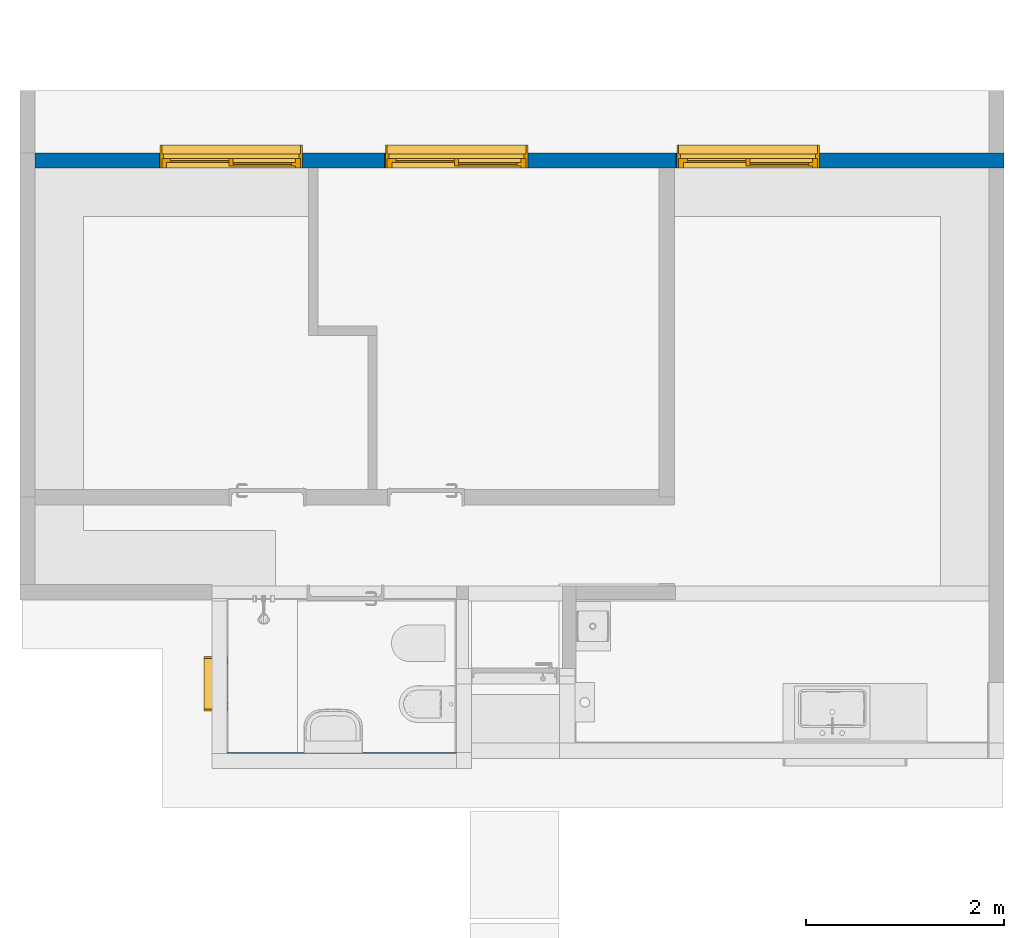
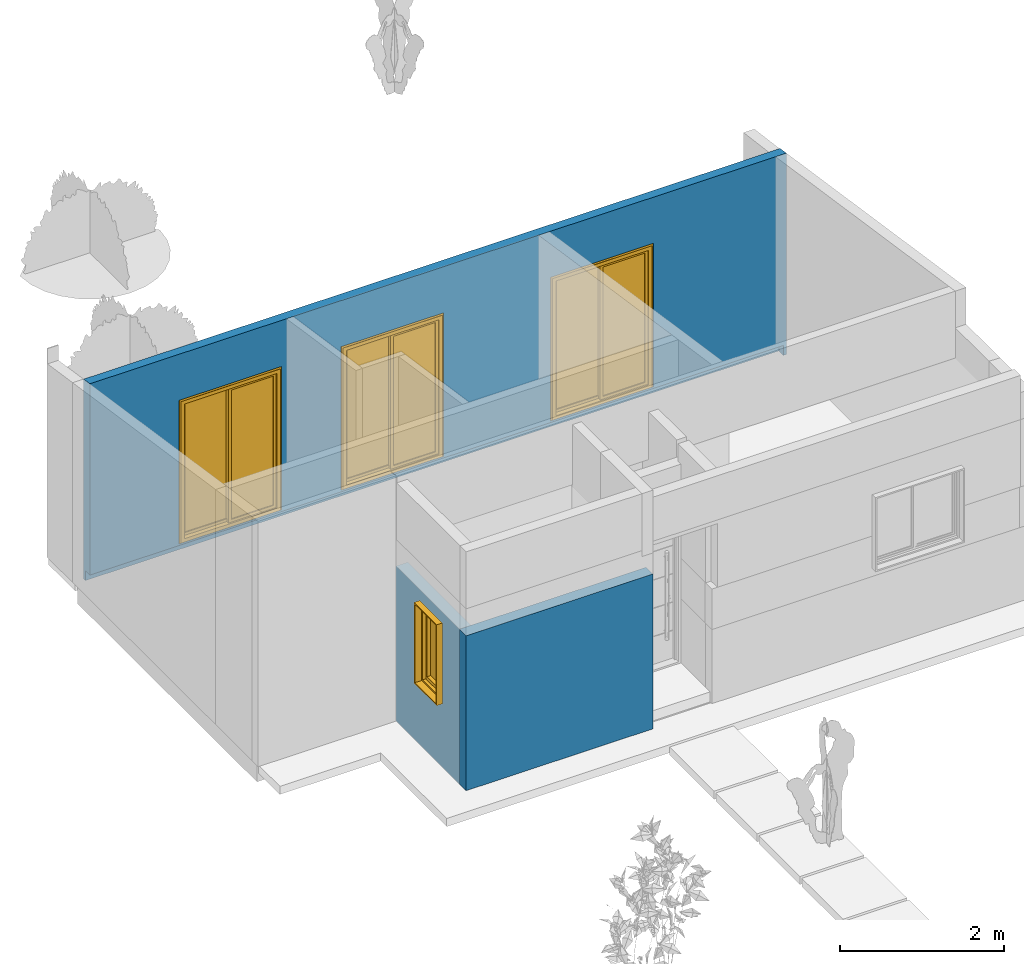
# One storey, part 3 of 8: 7 windows, 2 walls, 7 openings, plus 1 element that does not belong to this part.
"""IFC2X3 building model written with IfcOpenShell, lengths in metres."""

import ifcopenshell
import ifcopenshell.guid

model = None  # the IFC model being written
_history = None  # IfcOwnerHistory: only IFC2X3 demands one
_inside = {}  # id of a spatial element -> (the spatial element, [elements in it])
_under = {}  # id of a project, library or spatial element -> (it, [spatial elements below it])
_declared = {}  # id of a project -> (the project, [libraries it declares])
_typed = {}  # id of a type object -> (the type object, [elements of that type])
_made_of = {}  # id of a material, layer set ... -> (it, [elements and type objects made of it])


def new_model(schema):
    """Start an empty IFC model of exactly this schema.

    Asked for "IFC4X3", IfcOpenShell would pick the latest addendum, in which some entities
    have other attributes; the version numbers below select the first issue.
    IFC2X3 requires an IfcOwnerHistory on every rooted entity: one is made here for all.
    """
    global model, _history
    if schema == "IFC4X3":
        model = ifcopenshell.file(schema_version=(4, 3, 0, 0))
    else:
        model = ifcopenshell.file(schema=schema)
    _inside.clear()
    _under.clear()
    _declared.clear()
    _typed.clear()
    _made_of.clear()
    _history = None
    if model.schema == "IFC2X3":
        org = make("IfcOrganization", Name="unknown")
        user = make(
            "IfcPersonAndOrganization",
            ThePerson=make("IfcPerson", FamilyName="unknown"),
            TheOrganization=org,
        )
        app = make(
            "IfcApplication",
            ApplicationDeveloper=org,
            Version="unknown",
            ApplicationFullName="unknown",
            ApplicationIdentifier="unknown",
        )
        _history = make(
            "IfcOwnerHistory",
            OwningUser=user,
            OwningApplication=app,
            ChangeAction="ADDED",
            CreationDate=0,
        )
    return model


def make(cls, **values):
    """One entity of the class cls with the attributes given. An attribute that is None is left unset."""
    return model.create_entity(
        cls, **{name: value for name, value in values.items() if value is not None}
    )


def entity(cls, *values):
    """Any entity or typed value of the class cls, its attributes in the order of the schema. None: left unset."""
    e = model.create_entity(cls)
    for i, value in enumerate(values):
        if value is not None:
            e[i] = value
    return e


def rooted(cls, **values):
    """An entity with a GlobalId (a new one), such as an element, a storey or a relation."""
    return make(cls, GlobalId=ifcopenshell.guid.new(), OwnerHistory=_history, **values)


def si_unit(unit_type, name, prefix=None):
    """IfcSIUnit, for example si_unit("LENGTHUNIT", "METRE", prefix="MILLI")."""
    return make("IfcSIUnit", UnitType=unit_type, Prefix=prefix, Name=name)


def converted_unit(unit_type, name, factor, base, dimensions=None, offset=None):
    """IfcConversionBasedUnit, such as the inch: factor (a typed value) times the base unit."""
    return make(
        "IfcConversionBasedUnit"
        if offset is None
        else "IfcConversionBasedUnitWithOffset",
        ConversionOffset=offset,
        Dimensions=None
        if dimensions is None
        else entity("IfcDimensionalExponents", *dimensions),
        UnitType=unit_type,
        Name=name,
        ConversionFactor=make(
            "IfcMeasureWithUnit", ValueComponent=factor, UnitComponent=base
        ),
    )


def derived_unit(unit_type, elements):
    """IfcDerivedUnit: a product of units, each with its exponent."""
    return make(
        "IfcDerivedUnit",
        Elements=[
            make("IfcDerivedUnitElement", Unit=unit, Exponent=power)
            for unit, power in elements
        ],
        UnitType=unit_type,
    )


def assignment(units):
    """IfcUnitAssignment: the units of a project."""
    return None if units is None else make("IfcUnitAssignment", Units=units)


def point(xyz):
    """IfcCartesianPoint."""
    return None if xyz is None else make("IfcCartesianPoint", Coordinates=xyz)


def direction(xyz):
    """IfcDirection."""
    return None if xyz is None else make("IfcDirection", DirectionRatios=xyz)


def frame(location, z_axis=None, x_axis=None):
    """IfcAxis2Placement3D, a coordinate frame: its origin and axes. An axis left out is left unset."""
    return make(
        "IfcAxis2Placement3D",
        Location=point(location),
        Axis=direction(z_axis),
        RefDirection=direction(x_axis),
    )


def frame_2d(location, x_axis=None):
    """IfcAxis2Placement2D, a coordinate frame in the plane: its origin and x axis."""
    return make(
        "IfcAxis2Placement2D", Location=point(location), RefDirection=direction(x_axis)
    )


def origin():
    """The frame at (0, 0, 0) with its axes left unset."""
    return frame((0.0, 0.0, 0.0))


def origin_2d_with_axis():
    """The frame at (0, 0) in the plane with the x axis (1, 0) written out."""
    return frame_2d((0.0, 0.0), x_axis=(1.0, 0.0))


def place(relative_to, where):
    """IfcLocalPlacement: puts the frame where relative to a parent placement (None: the world)."""
    return make(
        "IfcLocalPlacement", PlacementRelTo=relative_to, RelativePlacement=where
    )


def context(
    kind, dimensions, precision=None, world=None, true_north=None, identifier=None
):
    """IfcGeometricRepresentationContext, for example the 3D "Model" context."""
    return make(
        "IfcGeometricRepresentationContext",
        ContextIdentifier=identifier,
        ContextType=kind,
        CoordinateSpaceDimension=dimensions,
        Precision=precision,
        WorldCoordinateSystem=world,
        TrueNorth=true_north,
    )


def subcontext(parent, identifier, kind, view, scale=None):
    """IfcGeometricRepresentationSubContext, for example "Body" below "Model"."""
    return make(
        "IfcGeometricRepresentationSubContext",
        ContextIdentifier=identifier,
        ContextType=kind,
        ParentContext=parent,
        TargetScale=scale,
        TargetView=view,
    )


def project(units=None, contexts=None):
    """IfcProject with its units and contexts."""
    return rooted(
        "IfcProject",
        Name="project",
        RepresentationContexts=contexts,
        UnitsInContext=assignment(units),
    )


def spatial(cls, under=None, at=None, **own):
    """A site, building, storey or space (cls), placed at a placement, below another one or the project."""
    s = rooted(cls, ObjectPlacement=at, **own)
    if under is not None:
        _under.setdefault(under.id(), (under, []))[1].append(s)
    return s


def polyline(points):
    """IfcPolyline through the points."""
    return make("IfcPolyline", Points=[point(p) for p in points])


def profile(cls, at=None, kind="AREA", **sizes):
    """A parametric profile (cls). Its sizes go by their IFC names, for example OverallWidth=200.0."""
    return make(cls, ProfileType=kind, Position=at, **sizes)


def rectangle(**sizes):
    """IfcRectangleProfileDef."""
    return profile("IfcRectangleProfileDef", **sizes)


def outline(outer, holes=None, kind="AREA"):
    """IfcArbitraryClosedProfileDef: a profile drawn as a closed curve; with holes, ...WithVoids."""
    if holes is None:
        return make("IfcArbitraryClosedProfileDef", ProfileType=kind, OuterCurve=outer)
    return make(
        "IfcArbitraryProfileDefWithVoids",
        ProfileType=kind,
        OuterCurve=outer,
        InnerCurves=holes,
    )


def extrude(swept, where, along, depth):
    """IfcExtrudedAreaSolid: the profile swept, set in the frame where, extruded along a direction by depth."""
    return make(
        "IfcExtrudedAreaSolid",
        SweptArea=swept,
        Position=where,
        ExtrudedDirection=direction(along),
        Depth=depth,
    )


def clip(a, b, op="DIFFERENCE"):
    """IfcBooleanClippingResult: the solid a cut by the half space b."""
    return make(
        "IfcBooleanClippingResult", Operator=op, FirstOperand=a, SecondOperand=b
    )


def bounded_halfspace(plane, agree, where, boundary):
    """IfcPolygonalBoundedHalfSpace: a half space limited to a polygon's prism."""
    return make(
        "IfcPolygonalBoundedHalfSpace",
        BaseSurface=make("IfcPlane", Position=plane),
        AgreementFlag=agree,
        Position=where,
        PolygonalBoundary=boundary,
    )


def faces_of(points, faces, orient=None, outer=None):
    """IfcFace entities. A face is a list of loops; a loop is a list of indices into points, from 0.

    orient and outer hold one flag for each loop. By default every Orientation is true, the
    first loop of a face is its IfcFaceOuterBound and the others are IfcFaceBound.
    """
    made = []
    for i, loops in enumerate(faces):
        bounds = []
        for j, loop in enumerate(loops):
            is_outer = j == 0 if outer is None else outer[i][j]
            bounds.append(
                make(
                    "IfcFaceOuterBound" if is_outer else "IfcFaceBound",
                    Bound=make("IfcPolyLoop", Polygon=[points[k] for k in loop]),
                    Orientation=True if orient is None else orient[i][j],
                )
            )
        made.append(make("IfcFace", Bounds=bounds))
    return made


def faceted_brep(points, faces, orient=None, outer=None, voids=None):
    """IfcFacetedBrep: a solid bounded by flat faces; with voids (closed shells), ...WithVoids."""
    shared = [point(p) for p in points]
    hull = make("IfcClosedShell", CfsFaces=faces_of(shared, faces, orient, outer))
    if voids is None:
        return make("IfcFacetedBrep", Outer=hull)
    return make(
        "IfcFacetedBrepWithVoids",
        Outer=hull,
        Voids=[
            make(cls, CfsFaces=faces_of(shared, fs, o, b)) for cls, fs, o, b in voids
        ],
    )


def shape(context_of_items, identifier, shape_type, items):
    """IfcShapeRepresentation: the items that make up one representation, for example the "Body"."""
    return make(
        "IfcShapeRepresentation",
        ContextOfItems=context_of_items,
        RepresentationIdentifier=identifier,
        RepresentationType=shape_type,
        Items=items,
    )


def source(mapping_origin, context_of_items, identifier, shape_type, items):
    """IfcRepresentationMap: a shape defined once, which mapped items show again and again."""
    return make(
        "IfcRepresentationMap",
        MappingOrigin=mapping_origin,
        MappedRepresentation=shape(context_of_items, identifier, shape_type, items),
    )


def transform(
    local_origin,
    x_axis=None,
    y_axis=None,
    z_axis=None,
    scale=None,
    scale2=None,
    scale3=None,
    uniform=True,
):
    """IfcCartesianTransformationOperator3D, or its non-uniform kind. x_axis, y_axis, z_axis: its Axis1, 2, 3."""
    if uniform:
        return make(
            "IfcCartesianTransformationOperator3D",
            Axis1=direction(x_axis),
            Axis2=direction(y_axis),
            LocalOrigin=point(local_origin),
            Scale=scale,
            Axis3=direction(z_axis),
        )
    return make(
        "IfcCartesianTransformationOperator3DnonUniform",
        Axis1=direction(x_axis),
        Axis2=direction(y_axis),
        LocalOrigin=point(local_origin),
        Scale=scale,
        Axis3=direction(z_axis),
        Scale2=scale2,
        Scale3=scale3,
    )


def mapped(mapping_source, mapping_target):
    """IfcMappedItem: shows the shape of a source again, moved by a transform."""
    return make(
        "IfcMappedItem", MappingSource=mapping_source, MappingTarget=mapping_target
    )


def material(Name=None, Category=None):
    """IfcMaterial."""
    return make("IfcMaterial", Name=Name, Category=Category)


def material_list(materials):
    """IfcMaterialList."""
    return make("IfcMaterialList", Materials=materials)


def layer(
    of_material, thickness, ventilated=None, Name=None, Category=None, Priority=None
):
    """IfcMaterialLayer: one layer of a wall or slab, of a material (None: an air gap)."""
    return make(
        "IfcMaterialLayer",
        Material=of_material,
        LayerThickness=thickness,
        IsVentilated=ventilated,
        Name=Name,
        Category=Category,
        Priority=Priority,
    )


def layer_set(layers, Name=None):
    """IfcMaterialLayerSet."""
    return make("IfcMaterialLayerSet", MaterialLayers=layers, LayerSetName=Name)


def layer_usage(for_layer_set, set_direction, sense, offset, extent=None):
    """IfcMaterialLayerSetUsage: how a layer set lies in its element."""
    return make(
        "IfcMaterialLayerSetUsage",
        ForLayerSet=for_layer_set,
        LayerSetDirection=set_direction,
        DirectionSense=sense,
        OffsetFromReferenceLine=offset,
        ReferenceExtent=extent,
    )


def made_of(thing, what):
    """Note that an element or type object is made of a material, layer set ...; save() writes the relation."""
    if what is not None:
        _made_of.setdefault(what.id(), (what, []))[1].append(thing)
    return thing


def type_object(cls, material=None, **own):
    """A type object (cls), such as IfcWallType, which elements share."""
    return made_of(rooted(cls, **own), material)


def type_shapes(of_type, sources):
    """Give a type object the sources (RepresentationMaps) that its elements show as mapped items."""
    of_type.RepresentationMaps = sources


def element(
    cls,
    number,
    at=None,
    inside=None,
    cuts=None,
    type_object=None,
    material=None,
    context=None,
    identifier="Body",
    shape_type=None,
    held_by="IfcProductDefinitionShape",
    body=None,
    shapes=None,
    **own,
):
    """One element of the class cls, such as IfcWall. Its Tag is "e" and its number.

    at: its placement. inside: the storey or other place that contains it. cuts: it is an
    opening in that element (IfcRelVoidsElement). A single representation is given by context,
    identifier, shape_type and body (its items); several are given by shapes. held_by: the class
    of the entity that holds the representations. save() writes the other relations.
    """
    e = rooted(cls, Tag="e%d" % number, ObjectPlacement=at, **own)
    if body is not None:
        shapes = [shape(context, identifier, shape_type, body)]
    if shapes is not None:
        e.Representation = make(held_by, Representations=shapes)
    if inside is not None:
        _inside.setdefault(inside.id(), (inside, []))[1].append(e)
    if cuts is not None:
        rooted(
            "IfcRelVoidsElement", RelatingBuildingElement=cuts, RelatedOpeningElement=e
        )
    if type_object is not None:
        _typed.setdefault(type_object.id(), (type_object, []))[1].append(e)
    return made_of(e, material)


def fill(opening, filler):
    """IfcRelFillsElement: the door or window that sits in an opening."""
    return rooted(
        "IfcRelFillsElement",
        RelatingOpeningElement=opening,
        RelatedBuildingElement=filler,
    )


def aggregate(whole, parts):
    """IfcRelAggregates: a whole, such as a stair, and the parts it consists of."""
    return rooted("IfcRelAggregates", RelatingObject=whole, RelatedObjects=parts)


def save(model, path):
    """Write the relations noted so far, then the file.

    IfcRelAggregates (storeys below a building ...), IfcRelContainedInSpatialStructure (elements
    in a storey), IfcRelDefinesByType, IfcRelAssociatesMaterial and IfcRelDeclares: one each for
    every whole, place, type object, material and project.
    """
    for whole, parts in _under.values():
        aggregate(whole, parts)
    for where, things in _inside.values():
        rooted(
            "IfcRelContainedInSpatialStructure",
            RelatedElements=things,
            RelatingStructure=where,
        )
    for kind, things in _typed.values():
        rooted("IfcRelDefinesByType", RelatedObjects=things, RelatingType=kind)
    for what, things in _made_of.values():
        rooted("IfcRelAssociatesMaterial", RelatedObjects=things, RelatingMaterial=what)
    for by, libraries in _declared.values():
        rooted("IfcRelDeclares", RelatingContext=by, RelatedDefinitions=libraries)
    model.write(path)


model = new_model("IFC2X3")

# Units and contexts
model_context = context("Model", 3, precision=1e-05, world=origin(), true_north=direction((6.12303176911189e-17, 1.0)))
body_context = subcontext(model_context, "Body", "Model", "MODEL_VIEW")
ifc_project = project(units=[si_unit("LENGTHUNIT", "METRE"), si_unit("AREAUNIT", "SQUARE_METRE"), si_unit("VOLUMEUNIT", "CUBIC_METRE"), converted_unit("PLANEANGLEUNIT", "DEGREE", entity("IfcRatioMeasure", 0.0174532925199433), si_unit("PLANEANGLEUNIT", "RADIAN"), dimensions=[0, 0, 0, 0, 0, 0, 0]), si_unit("MASSUNIT", "GRAM", prefix="KILO"), derived_unit("MASSDENSITYUNIT", [(si_unit("MASSUNIT", "GRAM", prefix="KILO"), 1), (si_unit("LENGTHUNIT", "METRE"), -3)]), si_unit("TIMEUNIT", "SECOND"), si_unit("FREQUENCYUNIT", "HERTZ"), si_unit("THERMODYNAMICTEMPERATUREUNIT", "DEGREE_CELSIUS"), derived_unit("THERMALTRANSMITTANCEUNIT", [(si_unit("MASSUNIT", "GRAM", prefix="KILO"), 1), (si_unit("THERMODYNAMICTEMPERATUREUNIT", "KELVIN"), -1), (si_unit("TIMEUNIT", "SECOND"), -3)]), derived_unit("VOLUMETRICFLOWRATEUNIT", [(si_unit("LENGTHUNIT", "METRE"), 3), (si_unit("TIMEUNIT", "SECOND"), -1)]), si_unit("ELECTRICCURRENTUNIT", "AMPERE"), si_unit("ELECTRICVOLTAGEUNIT", "VOLT"), si_unit("POWERUNIT", "WATT"), si_unit("FORCEUNIT", "NEWTON", prefix="KILO"), si_unit("ILLUMINANCEUNIT", "LUX"), si_unit("LUMINOUSFLUXUNIT", "LUMEN"), si_unit("LUMINOUSINTENSITYUNIT", "CANDELA"), derived_unit("USERDEFINED", [(si_unit("MASSUNIT", "GRAM", prefix="KILO"), -1), (si_unit("LENGTHUNIT", "METRE"), -2), (si_unit("TIMEUNIT", "SECOND"), 3), (si_unit("LUMINOUSFLUXUNIT", "LUMEN"), 1)]), derived_unit("LINEARVELOCITYUNIT", [(si_unit("LENGTHUNIT", "METRE"), 1), (si_unit("TIMEUNIT", "SECOND"), -1)]), si_unit("PRESSUREUNIT", "PASCAL"), derived_unit("USERDEFINED", [(si_unit("LENGTHUNIT", "METRE"), -2), (si_unit("MASSUNIT", "GRAM", prefix="KILO"), 1), (si_unit("TIMEUNIT", "SECOND"), -2)])], contexts=[model_context])

# Site, building, storey
site_placement = place(None, origin())
site = spatial("IfcSite", under=ifc_project, at=site_placement, Name="Surface", CompositionType="ELEMENT")
building_placement = place(site_placement, origin())
building = spatial("IfcBuilding", under=site, at=building_placement, CompositionType="ELEMENT")
storey_placement = place(building_placement, origin())
storey = spatial("IfcBuildingStorey", under=building, at=storey_placement, Name="Nivel 0.0", CompositionType="ELEMENT", Elevation=0.0)

# Wall, openings, windows
ifc_material_1 = material(Name="Placa cementicia")
ifc_layer_1 = layer(ifc_material_1, 0.0125)
ifc_material_2 = material(Name="Bastidor metálico")
ifc_layer_2 = layer(ifc_material_2, 0.03)
ifc_material_3 = material(Name="OSB")
ifc_layer_3 = layer(ifc_material_3, 0.011)
ifc_material_4 = material(Name="Poliestireno expandido")
ifc_layer_4 = layer(ifc_material_4, 0.046)
ifc_layer_5 = layer(ifc_material_3, 0.011)
ifc_layer_6 = layer(ifc_material_2, 0.03)
ifc_material_5 = material(Name="Placa roca de Yeso 12,5mm")
ifc_layer_7 = layer(ifc_material_5, 0.0125)
ifc_layer_set_1 = layer_set([ifc_layer_1, ifc_layer_2, ifc_layer_3, ifc_layer_4, ifc_layer_5, ifc_layer_6, ifc_layer_7], Name="Basic Wall:Pe-NW-002")
wall_type_1 = type_object("IfcWallType", Name="Basic Wall:Pe-NW-002", PredefinedType="STANDARD", material=ifc_layer_set_1)
wall_1_placement = place(storey_placement, frame((0.937414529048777, 2.61521467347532, -0.175), z_axis=(0.0, 0.0, 1.0), x_axis=(-1.0, 0.0, 0.0)))
wall_1 = element("IfcWall", 1, at=wall_1_placement, inside=storey, type_object=wall_type_1, Name="Basic Wall:Pe-NW-002", ObjectType="Basic Wall:Pe-NW-002", context=body_context, shape_type="Brep", body=[
    faceted_brep([(7.08705141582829, -0.0764999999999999, 2.30418361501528), (8.52705141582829, -0.0764999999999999, 2.30418361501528), (8.52705141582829, -0.0764999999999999, 0.174183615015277), (7.08705141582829, -0.0764999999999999, 0.174183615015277), (4.81150000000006, -0.0764999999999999, 0.174183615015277), (4.81150000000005, -0.0764999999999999, 2.30418361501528), (6.25150000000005, -0.0764999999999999, 2.30418361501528), (6.25150000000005, -0.0764999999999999, 0.174183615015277), (1.86950012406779, -0.0764999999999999, 0.174183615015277), (1.86950012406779, -0.0764999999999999, 2.30418361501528), (3.30950012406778, -0.0764999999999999, 2.30418361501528), (3.30950012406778, -0.0764999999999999, 0.174183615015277), (0.0, -0.0764999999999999, 0.0), (0.152500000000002, -0.0764999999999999, 0.0), (9.78000000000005, -0.0764999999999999, 0.0), (9.78000000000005, -0.0764999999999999, 2.96604172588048), (0.0, -0.0764999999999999, 2.96604172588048), (0.0, -0.0764999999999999, 2.9571012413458), (8.52705141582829, 0.0764999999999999, 2.30418361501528), (7.08705141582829, 0.0764999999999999, 2.30418361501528), (7.08705141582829, 0.0764999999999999, 0.174183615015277), (8.52705141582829, 0.0764999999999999, 0.174183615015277), (4.81150000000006, 0.0764999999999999, 2.30418361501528), (4.81150000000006, 0.0764999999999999, 0.174183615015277), (6.25150000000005, 0.0764999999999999, 0.174183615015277), (6.25150000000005, 0.0764999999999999, 2.30418361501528), (1.86950012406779, 0.0764999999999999, 2.30418361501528), (1.86950012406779, 0.0764999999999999, 0.174183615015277), (3.30950012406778, 0.0764999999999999, 0.174183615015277), (3.30950012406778, 0.0764999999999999, 2.30418361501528), (0.0, 0.0764999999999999, 2.98899172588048), (0.153000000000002, 0.0764999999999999, 2.98899172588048), (3.32613301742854, 0.0764999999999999, 2.98899172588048), (3.48063301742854, 0.0764999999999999, 2.98899172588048), (6.92475012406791, 0.0764999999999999, 2.98899172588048), (7.01925012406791, 0.0764999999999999, 2.98899172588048), (9.78000000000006, 0.0764999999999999, 2.98899172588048), (9.78000000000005, 0.0764999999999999, 0.15), (0.153000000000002, 0.0764999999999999, 0.15), (0.0425000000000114, 0.0764999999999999, 0.15), (0.0425000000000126, 0.0764999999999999, 0.0), (0.0, 0.0764999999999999, 0.0), (0.0425000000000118, -0.0339999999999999, 0.0), (9.78000000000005, -0.0339999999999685, 0.0), (9.78000000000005, -0.0339999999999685, 0.15), (0.0425000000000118, -0.0339999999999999, 0.15)], [[[0, 1, 2, 3], [4, 5, 6, 7], [8, 9, 10, 11], [12, 13, 14, 15, 16, 17]], [[18, 19, 20, 21], [22, 23, 24, 25], [26, 27, 28, 29], [30, 31, 32, 33, 34, 35, 36, 37, 38, 39, 40, 41]], [[14, 13, 12, 41, 40, 42, 43]], [[2, 21, 20, 3]], [[23, 4, 7, 24]], [[27, 8, 11, 28]], [[16, 15, 36, 35, 34, 33, 32, 31, 30]], [[3, 20, 19, 0]], [[18, 1, 0, 19]], [[1, 18, 21, 2]], [[4, 23, 22, 5]], [[5, 22, 25, 6]], [[6, 25, 24, 7]], [[8, 27, 26, 9]], [[9, 26, 29, 10]], [[10, 29, 28, 11]], [[15, 14, 43, 44, 37, 36]], [[44, 45, 39, 38, 37]], [[42, 45, 44, 43]], [[45, 42, 40, 39]], [[41, 12, 17, 16, 30]]], outer=[[False, False, False, True], [False, False, False, True], [True], [True], [True], [True], [True], [True], [True], [True], [True], [True], [True], [True], [True], [True], [True], [True], [True], [True], [True]]),
])
opening_1_placement = place(wall_1_placement, frame((8.50205141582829, 0.0764999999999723, 0.174183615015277)))
opening_1 = element("IfcOpeningElement", 2, at=opening_1_placement, cuts=wall_1, Name="Vtana Corrediza:PV1:1", ObjectType="Opening", context=body_context, shape_type="SweptSolid", body=[
    extrude(rectangle(XDim=2.1, YDim=1.4, at=frame_2d((1.05, 0.7), x_axis=(1.0, 0.0))), frame((0.0, 0.0, 0.0), z_axis=(0.0, -1.0, 0.0), x_axis=(0.0, 0.0, 1.0)), (0.0, 0.0, 1.0), 0.153),
])
opening_2_placement = place(wall_1_placement, frame((6.22650000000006, 0.0764999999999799, 0.174183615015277)))
opening_2 = element("IfcOpeningElement", 3, at=opening_2_placement, cuts=wall_1, Name="Vtana Corrediza:PV1:1", ObjectType="Opening", context=body_context, shape_type="SweptSolid", body=[
    extrude(rectangle(XDim=2.1, YDim=1.4, at=frame_2d((1.05, 0.7), x_axis=(1.0, 0.0))), frame((0.0, 0.0, 0.0), z_axis=(0.0, -1.0, 0.0), x_axis=(0.0, 0.0, 1.0)), (0.0, 0.0, 1.0), 0.153),
])
opening_3_placement = place(wall_1_placement, frame((3.28450012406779, 0.0764999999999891, 0.174183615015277)))
opening_3 = element("IfcOpeningElement", 4, at=opening_3_placement, cuts=wall_1, Name="Vtana Corrediza:PV1:1", ObjectType="Opening", context=body_context, shape_type="SweptSolid", body=[
    extrude(rectangle(XDim=2.1, YDim=1.4, at=frame_2d((1.05, 0.7), x_axis=(1.0, 0.0))), frame((0.0, 0.0, 0.0), z_axis=(0.0, -1.0, 0.0), x_axis=(0.0, 0.0, 1.0)), (0.0, 0.0, 1.0), 0.153),
])
opening_4_placement = place(wall_1_placement, frame((8.52705141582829, 0.0764999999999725, 0.174183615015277)))
opening_4 = element("IfcOpeningElement", 5, at=opening_4_placement, cuts=wall_1, Name="Premarco metálico:Premarco metálico PV1:1", ObjectType="Opening", context=body_context, shape_type="SweptSolid", body=[
    extrude(rectangle(XDim=2.13, YDim=1.44, at=frame_2d((1.065, 0.719999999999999), x_axis=(1.0, 0.0))), frame((0.0, 0.0, 0.0), z_axis=(0.0, -1.0, 0.0), x_axis=(0.0, 0.0, 1.0)), (0.0, 0.0, 1.0), 0.153),
])
opening_5_placement = place(wall_1_placement, frame((6.25150000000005, 0.0764999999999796, 0.174183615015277)))
opening_5 = element("IfcOpeningElement", 6, at=opening_5_placement, cuts=wall_1, Name="Premarco metálico:Premarco metálico PV1:1", ObjectType="Opening", context=body_context, shape_type="SweptSolid", body=[
    extrude(rectangle(XDim=2.13, YDim=1.44, at=frame_2d((1.065, 0.719999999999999), x_axis=(1.0, 0.0))), frame((0.0, 0.0, 0.0), z_axis=(0.0, -1.0, 0.0), x_axis=(0.0, 0.0, 1.0)), (0.0, 0.0, 1.0), 0.153),
])
opening_6_placement = place(wall_1_placement, frame((3.30950012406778, 0.0764999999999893, 0.174183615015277)))
opening_6 = element("IfcOpeningElement", 7, at=opening_6_placement, cuts=wall_1, Name="Premarco metálico:Premarco metálico PV1:1", ObjectType="Opening", context=body_context, shape_type="SweptSolid", body=[
    extrude(rectangle(XDim=2.13, YDim=1.44, at=frame_2d((1.065, 0.719999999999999), x_axis=(1.0, 0.0))), frame((0.0, 0.0, 0.0), z_axis=(0.0, -1.0, 0.0), x_axis=(0.0, 0.0, 1.0)), (0.0, 0.0, 1.0), 0.153),
])
ifc_material_6 = material(Name="Glass")
ifc_material_7 = material(Name="Laminate, White")
ifc_material_list_1 = material_list([ifc_material_6, ifc_material_7])
ifc_material_list_2 = material_list([ifc_material_6, ifc_material_7])
window_style_1 = type_object("IfcWindowStyle", Name="PV1", ConstructionType="NOTDEFINED", OperationType="NOTDEFINED", ParameterTakesPrecedence=False, Sizeable=False, material=ifc_material_list_2)
shared_shape_1 = source(origin(), body_context, "Body", "SweptSolid", [
    extrude(rectangle(XDim=0.59, YDim=0.00499999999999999, at=frame_2d((2.77555756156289e-17, -4.11996825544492e-18), x_axis=(1.0, 0.0))), frame((1.01500000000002, 0.0374999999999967, 0.0900000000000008)), (0.0, 0.0, 1.0), 1.91999999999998),
    extrude(rectangle(XDim=0.590000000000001, YDim=0.005, at=origin_2d_with_axis()), frame((0.385000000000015, 0.0774999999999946, 0.0900000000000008)), (0.0, 0.0, 1.0), 1.91999999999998),
    extrude(outline(polyline([(-0.334999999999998, -1.0), (0.334999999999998, -1.0), (0.334999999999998, 1.0), (-0.334999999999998, 1.0), (-0.334999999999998, -1.0)]), holes=[polyline([(-0.294999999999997, -0.959999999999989), (-0.294999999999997, 0.959999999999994), (0.294999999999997, 0.959999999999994), (0.294999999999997, -0.959999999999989), (-0.294999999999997, -0.959999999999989)])]), frame((1.01500000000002, 0.0599999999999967, 1.04999999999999), z_axis=(0.0, -1.0, 0.0), x_axis=(-1.0, 0.0, 0.0)), (0.0, 0.0, 1.0), 0.04),
    extrude(outline(polyline([(-0.335000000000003, -1.0), (0.335000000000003, -1.0), (0.335000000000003, 1.0), (-0.335000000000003, 1.0), (-0.335000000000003, -1.0)]), holes=[polyline([(0.295000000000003, -0.959999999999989), (-0.295000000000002, -0.959999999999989), (-0.295000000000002, 0.959999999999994), (0.295000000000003, 0.959999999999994), (0.295000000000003, -0.959999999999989)])]), frame((0.385000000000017, 0.0999999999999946, 1.04999999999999), z_axis=(0.0, -1.0, 0.0), x_axis=(-1.0, 0.0, 0.0)), (0.0, 0.0, 1.0), 0.04),
    extrude(outline(polyline([(-0.7, -1.05), (0.7, -1.05), (0.7, 1.05), (-0.7, 1.05), (-0.7, -1.05)]), holes=[polyline([(-0.650000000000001, -1.0), (-0.650000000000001, 1.0), (0.65, 1.0), (0.65, -1.0), (-0.650000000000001, -1.0)])]), frame((0.700000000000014, 0.0999999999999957, 1.05), z_axis=(0.0, -1.0, 0.0), x_axis=(-1.0, 0.0, 0.0)), (0.0, 0.0, 1.0), 0.0999999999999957),
])
type_shapes(window_style_1, [shared_shape_1])
window_1_placement = place(opening_1_placement, frame((0.0, 0.0, 0.0), z_axis=(0.0, 0.0, 1.0), x_axis=(-1.0, 0.0, 0.0)))
window_1 = element("IfcWindow", 8, at=window_1_placement, inside=storey, type_object=window_style_1, material=ifc_material_list_1, Name="Vtana Corrediza:PV1", ObjectType="Vtana Corrediza:PV1", OverallHeight=2.1, OverallWidth=1.4, context=body_context, shape_type="MappedRepresentation", body=[
    mapped(shared_shape_1, transform((0.0, 0.0, 0.0), scale=1.0)),
])
fill(opening_1, window_1)
ifc_material_list_3 = material_list([ifc_material_6, ifc_material_7])
window_2_placement = place(opening_2_placement, frame((0.0, 0.0, 0.0), z_axis=(0.0, 0.0, 1.0), x_axis=(-1.0, 0.0, 0.0)))
window_2 = element("IfcWindow", 9, at=window_2_placement, inside=storey, type_object=window_style_1, material=ifc_material_list_3, Name="Vtana Corrediza:PV1", ObjectType="Vtana Corrediza:PV1", OverallHeight=2.1, OverallWidth=1.4, context=body_context, shape_type="MappedRepresentation", body=[
    mapped(shared_shape_1, transform((0.0, 0.0, 0.0), scale=1.0)),
])
fill(opening_2, window_2)
ifc_material_list_4 = material_list([ifc_material_6, ifc_material_7])
window_3_placement = place(opening_3_placement, frame((0.0, 0.0, 0.0), z_axis=(0.0, 0.0, 1.0), x_axis=(-1.0, 0.0, 0.0)))
window_3 = element("IfcWindow", 10, at=window_3_placement, inside=storey, type_object=window_style_1, material=ifc_material_list_4, Name="Vtana Corrediza:PV1", ObjectType="Vtana Corrediza:PV1", OverallHeight=2.1, OverallWidth=1.4, context=body_context, shape_type="MappedRepresentation", body=[
    mapped(shared_shape_1, transform((0.0, 0.0, 0.0), scale=1.0)),
])
fill(opening_3, window_3)
ifc_material_8 = material(Name="Chapa plegada")
window_style_2 = type_object("IfcWindowStyle", Name="Premarco metálico PV1", ConstructionType="NOTDEFINED", OperationType="NOTDEFINED", ParameterTakesPrecedence=False, Sizeable=False, material=ifc_material_8)
shared_shape_2 = source(origin(), body_context, "Body", "Brep", [
    faceted_brep([(1.54853617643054, 0.141500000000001, 2.092), (1.54853617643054, 0.141500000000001, 0.0380000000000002), (1.54853617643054, 0.00150000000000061, 0.0379999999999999), (1.54853617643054, 0.00150000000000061, 2.092), (0.184536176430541, 0.00149999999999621, 0.0380000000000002), (0.184536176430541, 0.00149999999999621, 2.092), (1.58653617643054, 0.00150000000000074, 0.0), (1.58653617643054, 0.00150000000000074, 2.13), (0.146536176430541, 0.00149999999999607, 2.13), (0.146536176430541, 0.00149999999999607, 0.0), (0.18453617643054, 0.141499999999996, 0.0380000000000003), (0.18453617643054, 0.141499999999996, 2.092), (1.56753617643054, 0.141500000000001, 2.111), (1.56753617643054, 0.141500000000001, 0.0190000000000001), (0.16553617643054, 0.141499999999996, 0.0190000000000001), (0.16553617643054, 0.141499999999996, 2.111), (1.56753617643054, 0.236500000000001, 2.111), (1.56753617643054, 0.236500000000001, 0.0190000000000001), (0.16553617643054, 0.236499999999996, 0.0190000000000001), (0.16553617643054, 0.236499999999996, 2.111), (1.58653617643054, 0.236500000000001, 2.13), (1.58653617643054, 0.236500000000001, 0.0), (0.14653617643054, 0.236499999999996, 0.0), (0.14653617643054, 0.236499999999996, 2.13)], [[[0, 1, 2, 3]], [[3, 2, 4, 5], [6, 7, 8, 9]], [[1, 10, 4, 2]], [[1, 0, 11, 10], [12, 13, 14, 15]], [[16, 17, 13, 12]], [[17, 18, 14, 13]], [[17, 16, 19, 18], [20, 21, 22, 23]], [[7, 6, 21, 20]], [[6, 9, 22, 21]], [[10, 11, 5, 4]], [[18, 19, 15, 14]], [[9, 8, 23, 22]], [[11, 0, 3, 5]], [[19, 16, 12, 15]], [[8, 7, 20, 23]]], outer=[[True], [False, True], [True], [False, True], [True], [True], [False, True], [True], [True], [True], [True], [True], [True], [True], [True]]),
])
type_shapes(window_style_2, [shared_shape_2])
window_4_placement = place(opening_4_placement, frame((0.140000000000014, 0.0, 0.0), z_axis=(0.0, 0.0, 1.0), x_axis=(-1.0, 0.0, 0.0)))
window_4 = element("IfcWindow", 11, at=window_4_placement, inside=storey, type_object=window_style_2, material=ifc_material_8, Name="Premarco metálico:Premarco metálico PV1", ObjectType="Premarco metálico:Premarco metálico PV1", OverallHeight=2.13, OverallWidth=1.44, context=body_context, shape_type="MappedRepresentation", body=[
    mapped(shared_shape_2, transform((0.0, 0.0, 0.0), scale=1.0)),
])
fill(opening_4, window_4)
window_5_placement = place(opening_5_placement, frame((0.140000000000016, 0.0, 0.0), z_axis=(0.0, 0.0, 1.0), x_axis=(-1.0, 0.0, 0.0)))
window_5 = element("IfcWindow", 12, at=window_5_placement, inside=storey, type_object=window_style_2, material=ifc_material_8, Name="Premarco metálico:Premarco metálico PV1", ObjectType="Premarco metálico:Premarco metálico PV1", OverallHeight=2.13, OverallWidth=1.44, context=body_context, shape_type="MappedRepresentation", body=[
    mapped(shared_shape_2, transform((0.0, 0.0, 0.0), scale=1.0)),
])
fill(opening_5, window_5)
window_6_placement = place(opening_6_placement, frame((0.140000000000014, 0.0, 0.0), z_axis=(0.0, 0.0, 1.0), x_axis=(-1.0, 0.0, 0.0)))
window_6 = element("IfcWindow", 13, at=window_6_placement, inside=storey, type_object=window_style_2, material=ifc_material_8, Name="Premarco metálico:Premarco metálico PV1", ObjectType="Premarco metálico:Premarco metálico PV1", OverallHeight=2.13, OverallWidth=1.44, context=body_context, shape_type="MappedRepresentation", body=[
    mapped(shared_shape_2, transform((0.0, 0.0, 0.0), scale=1.0)),
])
fill(opening_6, window_6)

# Wall
ifc_material_9 = material(Name="Revestimiento exterior  tipo siding")
ifc_material_10 = material(Name="Revestimiento Cerámico muro")
ifc_material_list_5 = material_list([ifc_material_9, ifc_material_2, ifc_material_3, ifc_material_4, ifc_material_3, ifc_material_2, ifc_material_5, ifc_material_10])
ifc_layer_8 = layer(ifc_material_9, 0.012)
ifc_layer_9 = layer(ifc_material_2, 0.03)
ifc_layer_10 = layer(ifc_material_3, 0.011)
ifc_layer_11 = layer(ifc_material_4, 0.046)
ifc_layer_12 = layer(ifc_material_3, 0.011)
ifc_layer_13 = layer(ifc_material_2, 0.03)
ifc_layer_14 = layer(ifc_material_5, 0.012)
ifc_layer_15 = layer(ifc_material_10, 0.012)
ifc_layer_set_2 = layer_set([ifc_layer_8, ifc_layer_9, ifc_layer_10, ifc_layer_11, ifc_layer_12, ifc_layer_13, ifc_layer_14, ifc_layer_15], Name="Basic Wall:Pe-NW-006")
wall_type_2 = type_object("IfcWallType", Name="Basic Wall:Pe-NW-006", PredefinedType="STANDARD", material=ifc_layer_set_2)
wall_2_placement = place(storey_placement, frame((-7.05801368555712, -3.44078532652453, -0.175)))
element("IfcWall", 14, at=wall_2_placement, inside=storey, type_object=wall_type_2, material=ifc_material_list_5, Name="Basic Wall:Pe-NW-006", ObjectType="Basic Wall:Pe-NW-006", context=body_context, shape_type="Brep", body=[
    faceted_brep([(0.0, -0.0820000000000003, 0.0), (2.61899999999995, -0.0820000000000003, 0.0), (2.61899999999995, -0.0820000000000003, 2.3), (0.0, -0.0820000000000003, 2.3), (0.0, 0.0819999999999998, 0.0), (0.0420000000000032, 0.0819999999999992, 0.0), (0.0420000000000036, -0.0400000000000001, 0.0), (2.57699999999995, -0.039999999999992, 0.0), (2.57699999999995, 0.0649999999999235, 0.0), (2.61899999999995, 0.0649999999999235, 0.0), (2.61899999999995, 0.0699999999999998, 2.3), (2.61899999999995, 0.0819999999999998, 2.3), (2.46699999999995, 0.0819999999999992, 2.3), (0.163999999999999, 0.0819999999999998, 2.3), (0.0, 0.0819999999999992, 2.3), (0.0, 0.0699999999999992, 2.3), (2.61899999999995, 0.0649999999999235, 0.15), (2.61899999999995, 0.0819999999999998, 0.15), (2.61899999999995, 0.0819999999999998, 2.21239073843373), (0.159250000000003, 0.0819999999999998, 0.124183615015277), (0.861909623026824, 0.0819999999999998, 0.124183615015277), (0.861909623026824, 0.0772500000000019, 0.124183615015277), (0.159250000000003, 0.0772499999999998, 0.124183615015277), (2.57699999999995, -0.039999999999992, 0.15), (0.0420000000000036, -0.0400000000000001, 0.15), (0.0420000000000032, 0.0819999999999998, 0.15), (0.159250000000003, 0.0819999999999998, 0.15), (0.159250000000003, 0.0772499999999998, 0.15), (0.861909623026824, 0.0772500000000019, 0.15), (0.861909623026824, 0.0819999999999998, 0.15), (2.45499999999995, 0.0819999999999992, 0.15), (2.57699999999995, 0.0649999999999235, 0.15)], [[[0, 1, 2, 3]], [[1, 0, 4, 5, 6, 7, 8, 9]], [[3, 2, 10, 11, 12, 13, 14, 15]], [[11, 10, 2, 1, 9, 16, 17, 18]], [[19, 20, 21, 22]], [[23, 24, 25, 26, 27, 28, 29, 30, 17, 16, 31]], [[8, 31, 16, 9]], [[23, 31, 8, 7]], [[24, 23, 7, 6]], [[0, 3, 15, 14, 4]], [[24, 6, 5, 25]], [[22, 27, 26, 19]], [[28, 27, 22, 21]], [[28, 21, 20, 29]], [[14, 13, 12, 11, 18, 17, 30, 29, 20, 19, 26, 25, 5, 4]]]),
    faceted_brep([(0.159250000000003, 0.0819999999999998, 0.0991836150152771), (0.861909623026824, 0.0819999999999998, 0.0991836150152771), (0.861909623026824, 0.0819999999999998, 0.0), (0.163999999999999, 0.0819999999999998, 0.0), (0.159250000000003, 0.0819999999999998, 0.0), (0.159250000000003, 0.0772499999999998, 0.0991836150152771), (0.861909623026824, 0.0772500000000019, 0.0991836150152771), (0.861909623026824, 0.0772500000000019, 0.0), (0.159250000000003, 0.0772499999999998, 0.0)], [[[0, 1, 2, 3, 4]], [[1, 0, 5, 6]], [[6, 7, 2, 1]], [[7, 6, 5, 8]], [[8, 5, 0, 4]], [[4, 3, 2, 7, 8]]]),
])

# Wall, opening, window
ifc_layer_usage = layer_usage(ifc_layer_set_2, "AXIS2", "POSITIVE", -0.082)
wall_3_placement = place(storey_placement, frame((-6.97601368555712, -1.81604870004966, -0.175), z_axis=(0.0, 0.0, 1.0), x_axis=(0.0, -1.0, 0.0)))
wall_3 = element("IfcWallStandardCase", 15, at=wall_3_placement, inside=storey, type_object=wall_type_2, material=ifc_layer_usage, Name="Basic Wall:Pe-NW-006", ObjectType="Basic Wall:Pe-NW-006", context=body_context, shape_type="Clipping", body=[
    clip(extrude(rectangle(XDim=1.54273662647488, YDim=0.164, at=frame_2d((0.771368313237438, -1.31838984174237e-16), x_axis=(-1.0, 0.0))), origin(), (0.0, 0.0, 1.0), 2.3), bounded_halfspace(frame((1.54273662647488, -0.0399999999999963, 0.15)), True, frame((1.54273662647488, -0.0399999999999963, 0.15)), polyline([(0.0, 0.0), (0.0, 0.117249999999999), (-1.54273662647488, 0.117249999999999), (-1.54273662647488, 0.0), (0.0, 0.0)]))),
])
opening_7_placement = place(wall_3_placement, frame((1.11817744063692, 0.0819999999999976, 0.937)))
opening_7 = element("IfcOpeningElement", 16, at=opening_7_placement, cuts=wall_3, Name="Ventana batiente horizontal V2:V2:1", ObjectType="Opening", context=body_context, shape_type="SweptSolid", body=[
    extrude(rectangle(XDim=1.2, YDim=0.549999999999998, at=frame_2d((0.6, 0.274999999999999), x_axis=(1.0, 0.0))), frame((0.0, 0.0, 0.0), z_axis=(0.0, -1.0, 0.0), x_axis=(0.0, 0.0, 1.0)), (0.0, 0.0, 1.0), 0.164),
])
ifc_material_11 = material(Name="Aluminum")
ifc_material_list_6 = material_list([ifc_material_8, ifc_material_6, ifc_material_11])
ifc_material_list_7 = material_list([ifc_material_8, ifc_material_6, ifc_material_11])
window_style_3 = type_object("IfcWindowStyle", Name="V2", ConstructionType="NOTDEFINED", OperationType="NOTDEFINED", ParameterTakesPrecedence=False, Sizeable=False, material=ifc_material_list_7)
shared_shape_3 = source(origin(), body_context, "Body", "Brep", [
    faceted_brep([(0.00528638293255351, 0.146999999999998, 1.124), (0.00528638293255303, 0.00699999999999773, 1.124), (0.0052863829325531, 0.00699999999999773, 0.0), (0.00528638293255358, 0.146999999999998, 0.0), (-0.0327136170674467, 0.00699999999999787, -0.0379999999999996), (0.517286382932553, 0.00699999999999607, -0.0379999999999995), (0.517286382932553, 0.00699999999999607, 1.162), (-0.0327136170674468, 0.00699999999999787, 1.162), (0.479286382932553, 0.00699999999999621, 1.124), (0.479286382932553, 0.00699999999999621, 0.0), (0.479286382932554, 0.146999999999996, 0.0), (0.479286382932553, 0.146999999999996, 1.124), (-0.0137136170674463, 0.146999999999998, 1.143), (0.498286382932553, 0.146999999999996, 1.143), (0.498286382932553, 0.146999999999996, -0.0189999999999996), (-0.0137136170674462, 0.146999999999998, -0.0189999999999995), (-0.013713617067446, 0.241999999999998, 1.143), (-0.013713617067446, 0.241999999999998, -0.0189999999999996), (0.498286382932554, 0.241999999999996, -0.0189999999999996), (0.498286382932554, 0.241999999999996, 1.143), (-0.032713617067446, 0.241999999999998, 1.162), (0.517286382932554, 0.241999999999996, 1.162), (0.517286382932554, 0.241999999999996, -0.0379999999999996), (-0.032713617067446, 0.241999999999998, -0.0379999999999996)], [[[0, 1, 2, 3]], [[4, 5, 6, 7], [1, 8, 9, 2]], [[3, 2, 9, 10]], [[3, 10, 11, 0], [12, 13, 14, 15]], [[16, 12, 15, 17]], [[17, 15, 14, 18]], [[17, 18, 19, 16], [20, 21, 22, 23]], [[7, 20, 23, 4]], [[4, 23, 22, 5]], [[10, 9, 8, 11]], [[18, 14, 13, 19]], [[5, 22, 21, 6]], [[11, 8, 1, 0]], [[19, 13, 12, 16]], [[6, 21, 20, 7]]], outer=[[True], [True, False], [True], [False, True], [True], [True], [False, True], [True], [True], [True], [True], [True], [True], [True], [True]]),
    faceted_brep([(0.0499999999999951, 0.0499999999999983, 1.04999999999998), (0.449999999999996, 0.049999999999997, 1.04999999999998), (0.449999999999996, 0.049999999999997, 0.0500000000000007), (0.0499999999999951, 0.0499999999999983, 0.0500000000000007), (0.449999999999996, 0.044999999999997, 1.04999999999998), (0.449999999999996, 0.044999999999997, 0.0500000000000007), (0.0499999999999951, 0.0449999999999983, 0.0500000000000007), (0.0499999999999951, 0.0449999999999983, 1.04999999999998)], [[[0, 1, 2, 3]], [[4, 5, 2, 1]], [[5, 6, 3, 2]], [[6, 7, 0, 3]], [[7, 6, 5, 4]], [[7, 4, 1, 0]]]),
    faceted_brep([(0.0, 0.0, 1.1), (0.0, 0.0, 0.0), (0.499999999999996, 0.0, 0.0), (0.499999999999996, 0.0, 1.1), (0.0499999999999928, 0.0, 1.04999999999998), (0.449999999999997, 0.0, 1.04999999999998), (0.449999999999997, 0.0, 0.0500000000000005), (0.0499999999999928, 0.0, 0.0500000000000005), (0.0, 0.0999999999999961, 1.1), (0.0, 0.0999999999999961, 0.0), (0.499999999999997, 0.0999999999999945, 0.0), (0.499999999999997, 0.0999999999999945, 1.1), (0.449999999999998, 0.0999999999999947, 1.04999999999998), (0.449999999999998, 0.0999999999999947, 0.0500000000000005), (0.0499999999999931, 0.099999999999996, 0.0500000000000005), (0.0499999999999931, 0.099999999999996, 1.04999999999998)], [[[0, 1, 2, 3], [4, 5, 6, 7]], [[1, 0, 8, 9]], [[2, 1, 9, 10]], [[3, 2, 10, 11]], [[6, 5, 12, 13]], [[7, 6, 13, 14]], [[4, 7, 14, 15]], [[15, 14, 13, 12], [8, 11, 10, 9]], [[0, 3, 11, 8]], [[5, 4, 15, 12]]], outer=[[True, False], [True], [True], [True], [True], [True], [True], [False, True], [True], [True]]),
])
type_shapes(window_style_3, [shared_shape_3])
window_7_placement = place(opening_7_placement, frame((-0.0261774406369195, 0.0, 0.0379999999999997), z_axis=(0.0, 0.0, 1.0), x_axis=(-1.0, 0.0, 0.0)))
window_7 = element("IfcWindow", 17, at=window_7_placement, inside=storey, type_object=window_style_3, material=ifc_material_list_6, Name="Ventana batiente horizontal V2:V2", ObjectType="Ventana batiente horizontal V2:V2", OverallHeight=1.2, OverallWidth=0.549999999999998, context=body_context, shape_type="MappedRepresentation", body=[
    mapped(shared_shape_3, transform((0.0, 0.0, 0.0), scale=1.0)),
])
fill(opening_7, window_7)

save(model, "model.ifc")
